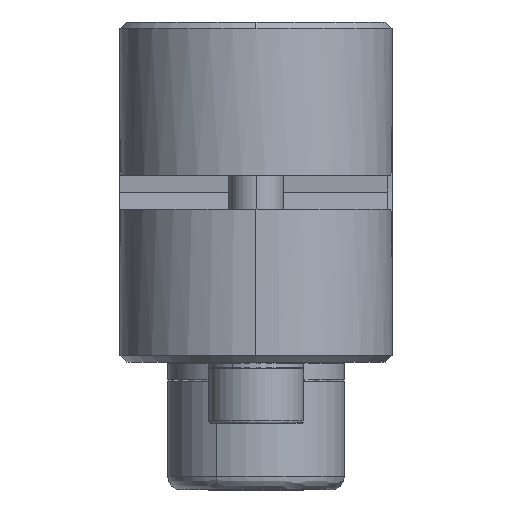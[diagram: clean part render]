
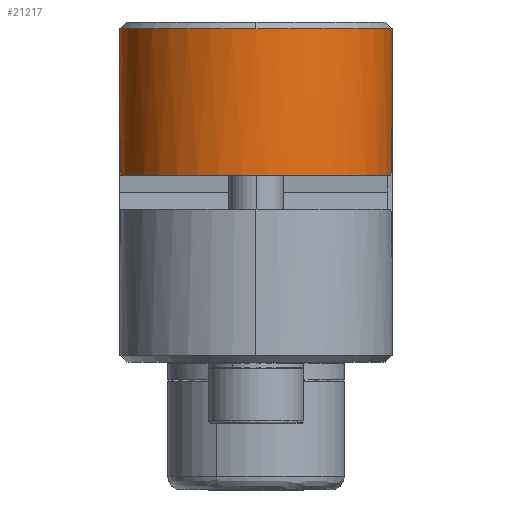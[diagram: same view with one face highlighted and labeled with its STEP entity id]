
A CAD part, left-side view. The second image highlights one B-rep face of the part: STEP entity #21217.
In plain terms, the highlighted cylindrical face has radius 10 mm (diameter 20 mm), a partial arc.
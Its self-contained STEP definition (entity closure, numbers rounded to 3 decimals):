
#288 = CARTESIAN_POINT ( 'NONE',  ( -39.994, 35.809, 32.471 ) ) ;
#662 = AXIS2_PLACEMENT_3D ( 'NONE', #959, #16644, #3233 ) ;
#872 = DIRECTION ( 'NONE',  ( 0., 0., 1. ) ) ;
#959 = CARTESIAN_POINT ( 'NONE',  ( -39.994, 35.809, 43.221 ) ) ;
#1382 = ORIENTED_EDGE ( 'NONE', *, *, #15547, .F. ) ;
#1464 = CARTESIAN_POINT ( 'NONE',  ( -39.994, 25.809, 31.221 ) ) ;
#1813 = CARTESIAN_POINT ( 'NONE',  ( -41.256, 25.889, 32.471 ) ) ;
#2079 = ORIENTED_EDGE ( 'NONE', *, *, #21956, .F. ) ;
#2084 = DIRECTION ( 'NONE',  ( 0., 1., 0. ) ) ;
#2585 = DIRECTION ( 'NONE',  ( 0., 1., 0. ) ) ;
#2897 = AXIS2_PLACEMENT_3D ( 'NONE', #19909, #4157, #2084 ) ;
#3007 = CARTESIAN_POINT ( 'NONE',  ( -39.994, 25.809, 36.23 ) ) ;
#3233 = DIRECTION ( 'NONE',  ( -1., 0., 0. ) ) ;
#3276 = ORIENTED_EDGE ( 'NONE', *, *, #8897, .F. ) ;
#4157 = DIRECTION ( 'NONE',  ( 0., 0., -1. ) ) ;
#4637 = CARTESIAN_POINT ( 'NONE',  ( -40.847, 45.773, 33.014 ) ) ;
#4695 = CARTESIAN_POINT ( 'NONE',  ( -41.256, 25.889, 32.471 ) ) ;
#5961 = ORIENTED_EDGE ( 'NONE', *, *, #27024, .T. ) ;
#6086 = ORIENTED_EDGE ( 'NONE', *, *, #14010, .F. ) ;
#6884 = CARTESIAN_POINT ( 'NONE',  ( -40.735, 45.783, 33.545 ) ) ;
#7192 = CARTESIAN_POINT ( 'NONE',  ( -39.994, 35.809, 43.221 ) ) ;
#7510 = LINE ( 'NONE', #1464, #9617 ) ;
#8007 = VERTEX_POINT ( 'NONE', #3007 ) ;
#8725 = EDGE_CURVE ( 'NONE', #28131, #27684, #15850, .T. ) ;
#8734 = VERTEX_POINT ( 'NONE', #18116 ) ;
#8897 = EDGE_CURVE ( 'NONE', #12161, #8734, #28340, .T. ) ;
#9429 = DIRECTION ( 'NONE',  ( -1., 0., 0. ) ) ;
#9617 = VECTOR ( 'NONE', #19380, 1000. ) ;
#10555 = CARTESIAN_POINT ( 'NONE',  ( -39.994, 45.809, 35.58 ) ) ;
#11207 = ORIENTED_EDGE ( 'NONE', *, *, #13649, .F. ) ;
#11372 = CARTESIAN_POINT ( 'NONE',  ( -40.428, 45.801, 34.581 ) ) ;
#11563 = FACE_OUTER_BOUND ( 'NONE', #22388, .T. ) ;
#12064 = CARTESIAN_POINT ( 'NONE',  ( -39.994, 45.809, 37.846 ) ) ;
#12161 = VERTEX_POINT ( 'NONE', #20096 ) ;
#12467 = LINE ( 'NONE', #12064, #17715 ) ;
#12986 = CARTESIAN_POINT ( 'NONE',  ( -40.6, 25.825, 35.043 ) ) ;
#13635 = CARTESIAN_POINT ( 'NONE',  ( -39.994, 45.809, 35.58 ) ) ;
#13649 = EDGE_CURVE ( 'NONE', #8734, #27673, #18094, .T. ) ;
#14010 = EDGE_CURVE ( 'NONE', #27684, #12161, #12467, .T. ) ;
#14718 = CYLINDRICAL_SURFACE ( 'NONE', #2897, 10. ) ;
#15248 = CARTESIAN_POINT ( 'NONE',  ( -41.173, 25.878, 33.132 ) ) ;
#15547 = EDGE_CURVE ( 'NONE', #20051, #28131, #28291, .T. ) ;
#15622 = B_SPLINE_CURVE_WITH_KNOTS ( 'NONE', 3,
 ( #24187, #26468, #12986, #28742, #15248, #1813 ),
 .UNSPECIFIED., .F., .F.,
 ( 4, 2, 4 ),
 ( 0., 0.002, 0.004 ),
 .UNSPECIFIED. ) ;
#15850 = B_SPLINE_CURVE_WITH_KNOTS ( 'NONE', 3,
 ( #24842, #4637, #6884, #11372, #27125, #13635 ),
 .UNSPECIFIED., .F., .F.,
 ( 4, 2, 4 ),
 ( 0., 0.002, 0.003 ),
 .UNSPECIFIED. ) ;
#15977 = DIRECTION ( 'NONE',  ( 0., 0., -1. ) ) ;
#16064 = AXIS2_PLACEMENT_3D ( 'NONE', #7192, #22842, #9429 ) ;
#16644 = DIRECTION ( 'NONE',  ( 0., 0., 1. ) ) ;
#17715 = VECTOR ( 'NONE', #872, 1000. ) ;
#18094 = CIRCLE ( 'NONE', #16064, 10. ) ;
#18116 = CARTESIAN_POINT ( 'NONE',  ( -49.994, 35.809, 43.221 ) ) ;
#18880 = ORIENTED_EDGE ( 'NONE', *, *, #8725, .F. ) ;
#19340 = CARTESIAN_POINT ( 'NONE',  ( -39.994, 25.809, 43.221 ) ) ;
#19380 = DIRECTION ( 'NONE',  ( 0., 0., 1. ) ) ;
#19909 = CARTESIAN_POINT ( 'NONE',  ( -39.994, 35.809, 43.221 ) ) ;
#20051 = VERTEX_POINT ( 'NONE', #4695 ) ;
#20096 = CARTESIAN_POINT ( 'NONE',  ( -39.994, 45.809, 43.221 ) ) ;
#21217 = ADVANCED_FACE ( 'NONE', ( #11563 ), #14718, .T. ) ;
#21710 = CARTESIAN_POINT ( 'NONE',  ( -40.916, 45.766, 32.471 ) ) ;
#21956 = EDGE_CURVE ( 'NONE', #8007, #20051, #15622, .T. ) ;
#22388 = EDGE_LOOP ( 'NONE', ( #3276, #6086, #18880, #1382, #2079, #5961, #11207 ) ) ;
#22842 = DIRECTION ( 'NONE',  ( 0., 0., 1. ) ) ;
#23850 = AXIS2_PLACEMENT_3D ( 'NONE', #288, #15977, #2585 ) ;
#24187 = CARTESIAN_POINT ( 'NONE',  ( -39.994, 25.809, 36.23 ) ) ;
#24842 = CARTESIAN_POINT ( 'NONE',  ( -40.916, 45.766, 32.471 ) ) ;
#26468 = CARTESIAN_POINT ( 'NONE',  ( -40.326, 25.809, 35.652 ) ) ;
#27024 = EDGE_CURVE ( 'NONE', #8007, #27673, #7510, .T. ) ;
#27125 = CARTESIAN_POINT ( 'NONE',  ( -40.233, 45.809, 35.087 ) ) ;
#27673 = VERTEX_POINT ( 'NONE', #19340 ) ;
#27684 = VERTEX_POINT ( 'NONE', #10555 ) ;
#28131 = VERTEX_POINT ( 'NONE', #21710 ) ;
#28291 = CIRCLE ( 'NONE', #23850, 10. ) ;
#28340 = CIRCLE ( 'NONE', #662, 10. ) ;
#28742 = CARTESIAN_POINT ( 'NONE',  ( -41.023, 25.86, 33.782 ) ) ;
